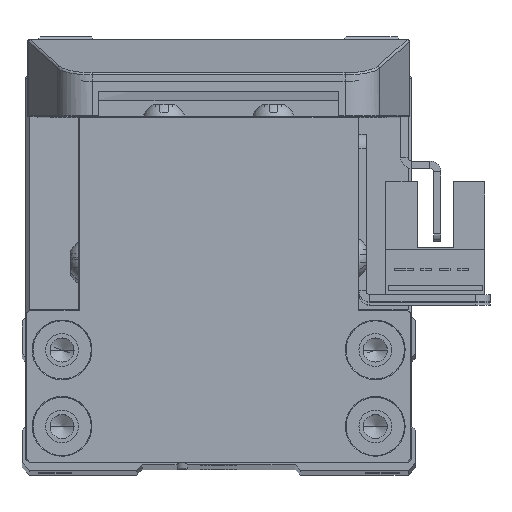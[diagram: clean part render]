
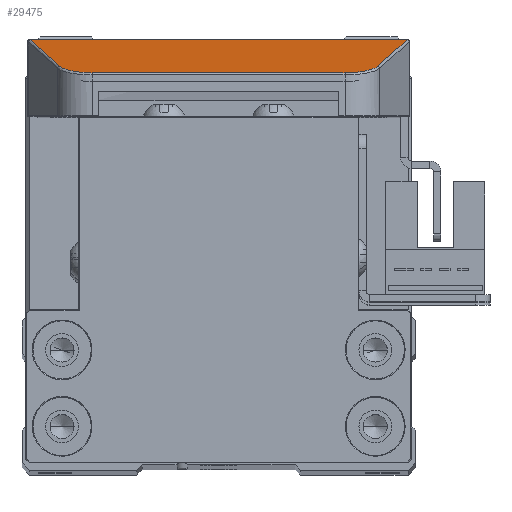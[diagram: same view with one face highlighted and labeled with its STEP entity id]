
A CAD part, top view. The second image highlights one B-rep face of the part: STEP entity #29475.
In plain terms, the highlighted planar face has unit normal (0, 0.962, 0.274) as drawn and (0, 0.274, 0.962) by its records, which use the part's own axes.
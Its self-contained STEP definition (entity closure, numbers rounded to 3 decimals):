
#59 = VERTEX_POINT ( 'NONE', #6370 ) ;
#154 = VERTEX_POINT ( 'NONE', #6911 ) ;
#584 = CARTESIAN_POINT ( 'NONE',  ( -25.87, 9.287, -0.082 ) ) ;
#772 = VERTEX_POINT ( 'NONE', #9480 ) ;
#1955 = ORIENTED_EDGE ( 'NONE', *, *, #10486, .T. ) ;
#2594 = CARTESIAN_POINT ( 'NONE',  ( 25.874, 9.275, -0.078 ) ) ;
#3606 = CARTESIAN_POINT ( 'NONE',  ( -43.406, 25.5, -4.7 ) ) ;
#3678 = VERTEX_POINT ( 'NONE', #9781 ) ;
#3967 = ORIENTED_EDGE ( 'NONE', *, *, #5760, .T. ) ;
#4180 = EDGE_CURVE ( 'NONE', #4196, #22652, #13746, .T. ) ;
#4196 = VERTEX_POINT ( 'NONE', #22023 ) ;
#4765 =( BOUNDED_CURVE ( )  B_SPLINE_CURVE ( 3, ( #19711, #2594, #22182, #7549 ),
 .UNSPECIFIED., .F., .T. ) 
 B_SPLINE_CURVE_WITH_KNOTS ( ( 4, 4 ),
 ( 5.009, 5.02 ),
 .UNSPECIFIED. ) 
 CURVE ( )  GEOMETRIC_REPRESENTATION_ITEM ( )  RATIONAL_B_SPLINE_CURVE ( ( 1., 1., 1., 1. ) ) 
 REPRESENTATION_ITEM ( '' )  );
#5129 = FACE_OUTER_BOUND ( 'NONE', #10088, .T. ) ;
#5616 = VECTOR ( 'NONE', #16824, 1000. ) ;
#5760 = EDGE_CURVE ( 'NONE', #25301, #154, #19355, .T. ) ;
#6079 = DIRECTION ( 'NONE',  ( 0., 0.962, -0.274 ) ) ;
#6370 = CARTESIAN_POINT ( 'NONE',  ( 25.87, 9.287, -0.082 ) ) ;
#6728 = ORIENTED_EDGE ( 'NONE', *, *, #27425, .T. ) ;
#6911 = CARTESIAN_POINT ( 'NONE',  ( 25.876, 9.269, -0.077 ) ) ;
#7516 = LINE ( 'NONE', #8335, #13982 ) ;
#7549 = CARTESIAN_POINT ( 'NONE',  ( 25.87, 9.287, -0.082 ) ) ;
#7876 = VECTOR ( 'NONE', #8824, 1000. ) ;
#7974 = CARTESIAN_POINT ( 'NONE',  ( -25.876, 9.269, -0.077 ) ) ;
#7983 = CARTESIAN_POINT ( 'NONE',  ( 19.466, 25.282, -4.638 ) ) ;
#8059 =( BOUNDED_CURVE ( )  B_SPLINE_CURVE ( 3, ( #24987, #22510, #7983, #25102 ),
 .UNSPECIFIED., .F., .T. ) 
 B_SPLINE_CURVE_WITH_KNOTS ( ( 4, 4 ),
 ( 5.02, 6.283 ),
 .UNSPECIFIED. ) 
 CURVE ( )  GEOMETRIC_REPRESENTATION_ITEM ( )  RATIONAL_B_SPLINE_CURVE ( ( 1., 0.871, 0.871, 1. ) ) 
 REPRESENTATION_ITEM ( '' )  );
#8335 = CARTESIAN_POINT ( 'NONE',  ( -22.655, 19.393, -2.96 ) ) ;
#8824 = DIRECTION ( 'NONE',  ( -1., 0., 0. ) ) ;
#9480 = CARTESIAN_POINT ( 'NONE',  ( 21.823, 22.007, -3.705 ) ) ;
#9781 = CARTESIAN_POINT ( 'NONE',  ( 17.344, 25.282, -4.638 ) ) ;
#10088 = EDGE_LOOP ( 'NONE', ( #3967, #31553, #6728, #1955, #13326, #31192, #15005, #12532 ) ) ;
#10486 = EDGE_CURVE ( 'NONE', #772, #3678, #8059, .T. ) ;
#10627 = LINE ( 'NONE', #28347, #30139 ) ;
#11243 = DIRECTION ( 'NONE',  ( -0.293, 0.92, -0.262 ) ) ;
#11285 = CARTESIAN_POINT ( 'NONE',  ( -17.344, 25.282, -4.638 ) ) ;
#12181 = CARTESIAN_POINT ( 'NONE',  ( -21.179, 24.03, -4.281 ) ) ;
#12410 = CARTESIAN_POINT ( 'NONE',  ( -21.823, 22.007, -3.705 ) ) ;
#12532 = ORIENTED_EDGE ( 'NONE', *, *, #31186, .T. ) ;
#13326 = ORIENTED_EDGE ( 'NONE', *, *, #23226, .T. ) ;
#13746 =( BOUNDED_CURVE ( )  B_SPLINE_CURVE ( 3, ( #24362, #26836, #12181, #29294 ),
 .UNSPECIFIED., .F., .F. ) 
 B_SPLINE_CURVE_WITH_KNOTS ( ( 4, 4 ),
 ( 0., 1.263 ),
 .UNSPECIFIED. ) 
 CURVE ( )  GEOMETRIC_REPRESENTATION_ITEM ( )  RATIONAL_B_SPLINE_CURVE ( ( 1., 0.871, 0.871, 1. ) ) 
 REPRESENTATION_ITEM ( '' )  );
#13982 = VECTOR ( 'NONE', #22957, 1000. ) ;
#15005 = ORIENTED_EDGE ( 'NONE', *, *, #18378, .T. ) ;
#15100 = CARTESIAN_POINT ( 'NONE',  ( -25.87, 9.287, -0.082 ) ) ;
#15200 = CARTESIAN_POINT ( 'NONE',  ( -25.872, 9.281, -0.08 ) ) ;
#15896 =( BOUNDED_CURVE ( )  B_SPLINE_CURVE ( 3, ( #15100, #15200, #22622, #7974 ),
 .UNSPECIFIED., .F., .F. ) 
 B_SPLINE_CURVE_WITH_KNOTS ( ( 4, 4 ),
 ( 1.263, 1.274 ),
 .UNSPECIFIED. ) 
 CURVE ( )  GEOMETRIC_REPRESENTATION_ITEM ( )  RATIONAL_B_SPLINE_CURVE ( ( 1., 1., 1., 1. ) ) 
 REPRESENTATION_ITEM ( '' )  );
#16295 = EDGE_CURVE ( 'NONE', #154, #59, #4765, .T. ) ;
#16610 = AXIS2_PLACEMENT_3D ( 'NONE', #3606, #20695, #6079 ) ;
#16719 = CARTESIAN_POINT ( 'NONE',  ( 26.25, 9.269, -0.077 ) ) ;
#16824 = DIRECTION ( 'NONE',  ( 1., 0., 0. ) ) ;
#18378 = EDGE_CURVE ( 'NONE', #22652, #18829, #7516, .T. ) ;
#18829 = VERTEX_POINT ( 'NONE', #584 ) ;
#19355 = LINE ( 'NONE', #16719, #5616 ) ;
#19711 = CARTESIAN_POINT ( 'NONE',  ( 25.876, 9.269, -0.077 ) ) ;
#20695 = DIRECTION ( 'NONE',  ( 0., -0.274, -0.962 ) ) ;
#22023 = CARTESIAN_POINT ( 'NONE',  ( -17.344, 25.282, -4.638 ) ) ;
#22182 = CARTESIAN_POINT ( 'NONE',  ( 25.872, 9.281, -0.08 ) ) ;
#22510 = CARTESIAN_POINT ( 'NONE',  ( 21.179, 24.03, -4.281 ) ) ;
#22622 = CARTESIAN_POINT ( 'NONE',  ( -25.874, 9.275, -0.078 ) ) ;
#22652 = VERTEX_POINT ( 'NONE', #12410 ) ;
#22957 = DIRECTION ( 'NONE',  ( -0.293, -0.92, 0.262 ) ) ;
#23226 = EDGE_CURVE ( 'NONE', #3678, #4196, #25092, .T. ) ;
#24362 = CARTESIAN_POINT ( 'NONE',  ( -17.344, 25.282, -4.638 ) ) ;
#24987 = CARTESIAN_POINT ( 'NONE',  ( 21.823, 22.007, -3.705 ) ) ;
#25092 = LINE ( 'NONE', #11285, #7876 ) ;
#25102 = CARTESIAN_POINT ( 'NONE',  ( 17.344, 25.282, -4.638 ) ) ;
#25301 = VERTEX_POINT ( 'NONE', #26865 ) ;
#25551 = PLANE ( 'NONE',  #16610 ) ;
#26836 = CARTESIAN_POINT ( 'NONE',  ( -19.466, 25.282, -4.638 ) ) ;
#26865 = CARTESIAN_POINT ( 'NONE',  ( -25.876, 9.269, -0.077 ) ) ;
#27425 = EDGE_CURVE ( 'NONE', #59, #772, #10627, .T. ) ;
#28347 = CARTESIAN_POINT ( 'NONE',  ( 15.221, 42.754, -9.615 ) ) ;
#29294 = CARTESIAN_POINT ( 'NONE',  ( -21.823, 22.007, -3.705 ) ) ;
#29475 = ADVANCED_FACE ( 'NONE', ( #5129 ), #25551, .F. ) ;
#30139 = VECTOR ( 'NONE', #11243, 1000. ) ;
#31186 = EDGE_CURVE ( 'NONE', #18829, #25301, #15896, .T. ) ;
#31192 = ORIENTED_EDGE ( 'NONE', *, *, #4180, .T. ) ;
#31553 = ORIENTED_EDGE ( 'NONE', *, *, #16295, .T. ) ;
